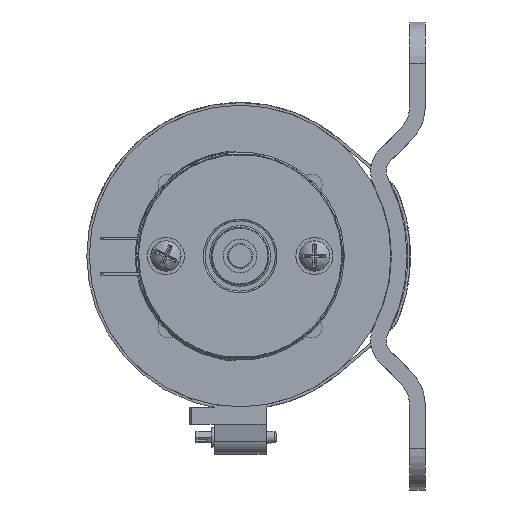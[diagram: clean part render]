
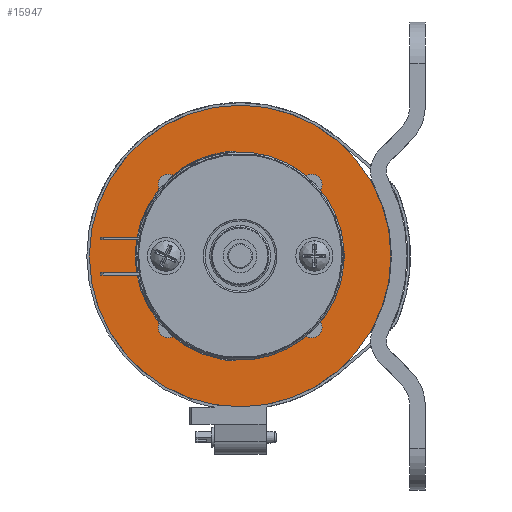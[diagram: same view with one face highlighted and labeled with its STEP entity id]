
A CAD part, left-side view. The second image highlights one B-rep face of the part: STEP entity #15947.
In plain terms, the highlighted planar face has unit normal (-1, 0, 0) as drawn and (0, 0, -1) by its records, which use the part's own axes.
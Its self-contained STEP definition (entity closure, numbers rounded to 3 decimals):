
#171 = CARTESIAN_POINT ( 'NONE',  ( 29., 0., -12.55 ) ) ;
#1683 = CIRCLE ( 'NONE', #37482, 2. ) ;
#1967 = CARTESIAN_POINT ( 'NONE',  ( 0., 0., -12.55 ) ) ;
#2000 = CARTESIAN_POINT ( 'NONE',  ( 13.753, 13.753, -12.55 ) ) ;
#2007 = EDGE_CURVE ( 'NONE', #7853, #7853, #1683, .T. ) ;
#2229 = EDGE_CURVE ( 'NONE', #35370, #35370, #20549, .T. ) ;
#4314 = AXIS2_PLACEMENT_3D ( 'NONE', #8486, #33653, #12152 ) ;
#4388 = FACE_BOUND ( 'NONE', #30757, .T. ) ;
#5485 = DIRECTION ( 'NONE',  ( 1., 0., 0. ) ) ;
#5507 = FACE_BOUND ( 'NONE', #8560, .T. ) ;
#5523 = DIRECTION ( 'NONE',  ( 1., 0., 0. ) ) ;
#6212 = CIRCLE ( 'NONE', #4314, 2. ) ;
#6648 = EDGE_LOOP ( 'NONE', ( #14494 ) ) ;
#7093 = ORIENTED_EDGE ( 'NONE', *, *, #2229, .T. ) ;
#7225 = DIRECTION ( 'NONE',  ( 0., 0., 1. ) ) ;
#7853 = VERTEX_POINT ( 'NONE', #26457 ) ;
#8486 = CARTESIAN_POINT ( 'NONE',  ( 13.753, -13.753, -12.55 ) ) ;
#8560 = EDGE_LOOP ( 'NONE', ( #11799 ) ) ;
#11385 = CIRCLE ( 'NONE', #38166, 2. ) ;
#11799 = ORIENTED_EDGE ( 'NONE', *, *, #2007, .T. ) ;
#12152 = DIRECTION ( 'NONE',  ( 1., 0., 0. ) ) ;
#12803 = FACE_OUTER_BOUND ( 'NONE', #33169, .T. ) ;
#13383 = DIRECTION ( 'NONE',  ( 0., 0., 1. ) ) ;
#13399 = ORIENTED_EDGE ( 'NONE', *, *, #38789, .F. ) ;
#14494 = ORIENTED_EDGE ( 'NONE', *, *, #24694, .F. ) ;
#15272 = CARTESIAN_POINT ( 'NONE',  ( -13.753, -13.753, -12.55 ) ) ;
#15947 = ADVANCED_FACE ( 'NONE', ( #5507, #31927, #4388, #23413, #22239, #12803 ), #39372, .F. ) ;
#16204 = DIRECTION ( 'NONE',  ( 0., 0., -1. ) ) ;
#16645 = ORIENTED_EDGE ( 'NONE', *, *, #20312, .T. ) ;
#18192 = EDGE_LOOP ( 'NONE', ( #16645 ) ) ;
#18836 = DIRECTION ( 'NONE',  ( 1., 0., 0. ) ) ;
#19028 = CIRCLE ( 'NONE', #28700, 29. ) ;
#20312 = EDGE_CURVE ( 'NONE', #21214, #21214, #6212, .T. ) ;
#20549 = CIRCLE ( 'NONE', #33314, 2. ) ;
#21214 = VERTEX_POINT ( 'NONE', #31365 ) ;
#22239 = FACE_BOUND ( 'NONE', #6648, .T. ) ;
#23413 = FACE_BOUND ( 'NONE', #46136, .T. ) ;
#23472 = VERTEX_POINT ( 'NONE', #46386 ) ;
#24365 = CARTESIAN_POINT ( 'NONE',  ( -6.35, 0., -12.55 ) ) ;
#24694 = EDGE_CURVE ( 'NONE', #44235, #44235, #30838, .T. ) ;
#26457 = CARTESIAN_POINT ( 'NONE',  ( -11.753, -13.753, -12.55 ) ) ;
#26972 = DIRECTION ( 'NONE',  ( 0., 0., 1. ) ) ;
#27006 = DIRECTION ( 'NONE',  ( 0., 0., 1. ) ) ;
#27640 = ORIENTED_EDGE ( 'NONE', *, *, #35709, .T. ) ;
#28584 = CARTESIAN_POINT ( 'NONE',  ( 0., 0., -12.55 ) ) ;
#28700 = AXIS2_PLACEMENT_3D ( 'NONE', #1967, #26972, #5485 ) ;
#29938 = AXIS2_PLACEMENT_3D ( 'NONE', #28584, #7225, #32389 ) ;
#30108 = CARTESIAN_POINT ( 'NONE',  ( -11.753, 13.753, -12.55 ) ) ;
#30757 = EDGE_LOOP ( 'NONE', ( #27640 ) ) ;
#30838 = CIRCLE ( 'NONE', #33070, 6.35 ) ;
#31365 = CARTESIAN_POINT ( 'NONE',  ( 15.753, -13.753, -12.55 ) ) ;
#31927 = FACE_BOUND ( 'NONE', #18192, .T. ) ;
#32389 = DIRECTION ( 'NONE',  ( 1., 0., 0. ) ) ;
#33070 = AXIS2_PLACEMENT_3D ( 'NONE', #37686, #16204, #41273 ) ;
#33169 = EDGE_LOOP ( 'NONE', ( #13399 ) ) ;
#33314 = AXIS2_PLACEMENT_3D ( 'NONE', #34900, #13383, #38460 ) ;
#33653 = DIRECTION ( 'NONE',  ( 0., 0., 1. ) ) ;
#34900 = CARTESIAN_POINT ( 'NONE',  ( -13.753, 13.753, -12.55 ) ) ;
#35370 = VERTEX_POINT ( 'NONE', #30108 ) ;
#35709 = EDGE_CURVE ( 'NONE', #23472, #23472, #11385, .T. ) ;
#37482 = AXIS2_PLACEMENT_3D ( 'NONE', #15272, #40346, #18836 ) ;
#37686 = CARTESIAN_POINT ( 'NONE',  ( 0., 0., -12.55 ) ) ;
#38166 = AXIS2_PLACEMENT_3D ( 'NONE', #2000, #27006, #5523 ) ;
#38460 = DIRECTION ( 'NONE',  ( 1., 0., 0. ) ) ;
#38789 = EDGE_CURVE ( 'NONE', #39175, #39175, #19028, .T. ) ;
#39175 = VERTEX_POINT ( 'NONE', #171 ) ;
#39372 = PLANE ( 'NONE',  #29938 ) ;
#40346 = DIRECTION ( 'NONE',  ( 0., 0., 1. ) ) ;
#41273 = DIRECTION ( 'NONE',  ( -1., 0., 0. ) ) ;
#44235 = VERTEX_POINT ( 'NONE', #24365 ) ;
#46136 = EDGE_LOOP ( 'NONE', ( #7093 ) ) ;
#46386 = CARTESIAN_POINT ( 'NONE',  ( 15.753, 13.753, -12.55 ) ) ;
